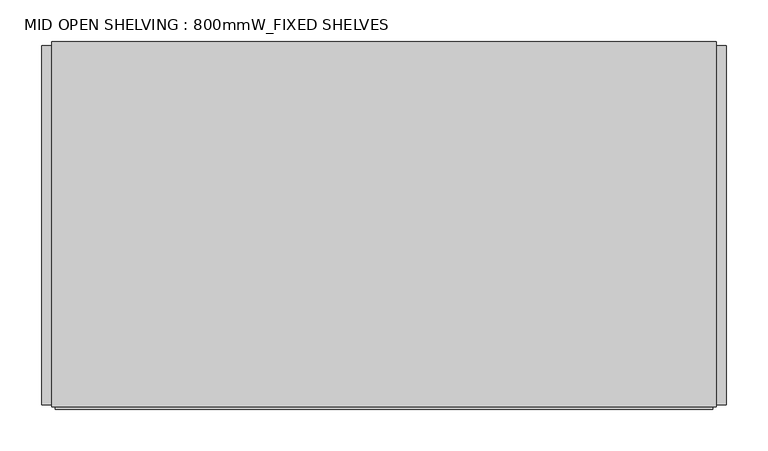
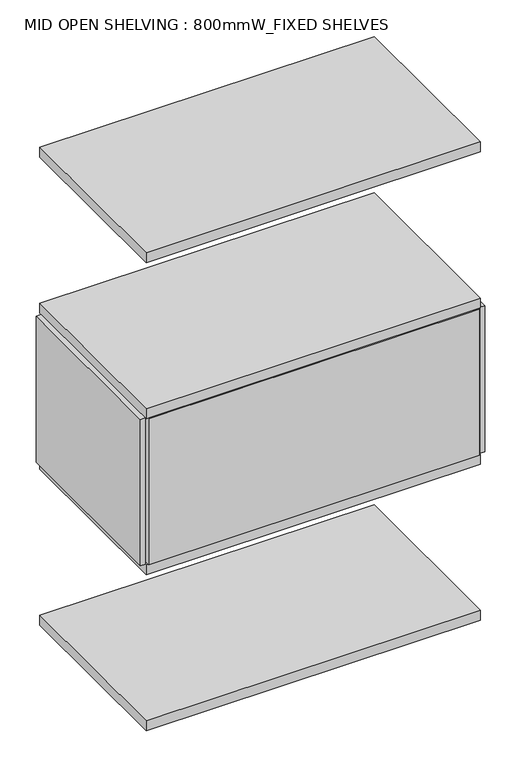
"""IFC4 building model written with IfcOpenShell, lengths in millimetres: furniture geometry, MID OPEN SHELVING : 800mmW_FIXED SHELVES."""

from ifc_helpers import new_model, si_unit, frame, origin, place, context, project, spatial, polyline, outline, extrude, source, transform, mapped, element, save


def mid_open_shelving_800mmw_fixed_shelves_fd13107a(model_context):
    return source(origin(), model_context, "Body", "SweptSolid", [
        extrude(outline(polyline([(412.0, 214.7757931), (412.0, -217.1931665), (400.0, -217.1931665), (400.0, 214.7757931), (412.0, 214.7757931)])), frame((0.0, 0.0, 413.0), z_axis=(0.0, 0.0, 1.0), x_axis=(1.0, 0.0, 0.0)), (0.0, 0.0, 1.0), 370.0),
        extrude(outline(polyline([(-400.0, 214.7757931), (-400.0, -217.1931665), (-412.0, -217.1931665), (-412.0, 214.7757931), (-400.0, 214.7757931)])), frame((0.0, 0.0, 413.0), z_axis=(0.0, 0.0, 1.0), x_axis=(1.0, 0.0, 0.0)), (0.0, 0.0, 1.0), 370.0),
        extrude(outline(polyline([(400.0, -220.0), (-400.0, -220.0), (-400.0, 220.0), (400.0, 220.0), (400.0, -220.0)])), frame((0.0, 0.0, -7.0), z_axis=(0.0, 0.0, 1.0), x_axis=(1.0, 0.0, 0.0)), (0.0, 0.0, 1.0), 25.0),
        extrude(outline(polyline([(400.0, -220.0), (-400.0, -220.0), (-400.0, 220.0), (400.0, 220.0), (400.0, -220.0)])), frame((0.0, 0.0, 388.0), z_axis=(0.0, 0.0, 1.0), x_axis=(1.0, 0.0, 0.0)), (0.0, 0.0, 1.0), 25.0),
        extrude(outline(polyline([(400.0, -220.0), (-400.0, -220.0), (-400.0, 220.0), (400.0, 220.0), (400.0, -220.0)])), frame((0.0, 0.0, 783.0), z_axis=(0.0, 0.0, 1.0), x_axis=(1.0, 0.0, 0.0)), (0.0, 0.0, 1.0), 25.0),
        extrude(outline(polyline([(400.0, -220.0), (-400.0, -220.0), (-400.0, 220.0), (400.0, 220.0), (400.0, -220.0)])), frame((0.0, 0.0, 1178.0), z_axis=(0.0, 0.0, 1.0), x_axis=(1.0, 0.0, 0.0)), (0.0, 0.0, 1.0), 25.0),
        extrude(outline(polyline([(395.4939356, -222.7282814), (-395.4939356, -222.7282814), (-395.4939356, -210.7282814), (395.4939356, -210.7282814), (395.4939356, -222.7282814)])), frame((0.0, 0.0, 413.0), z_axis=(0.0, 0.0, 1.0), x_axis=(1.0, 0.0, 0.0)), (0.0, 0.0, 1.0), 370.0),
    ])


if __name__ == "__main__":
    model = new_model("IFC4")
    model_context = context("Model", 3, world=origin())
    ifc_project = project(units=[si_unit("LENGTHUNIT", "METRE", prefix="MILLI")], contexts=[model_context])
    site = spatial("IfcSite", under=ifc_project)
    building = spatial("IfcBuilding", under=site)
    placement = place(None, origin())
    mid_open_shelving_800mmw_fixed_shelves_shape = mid_open_shelving_800mmw_fixed_shelves_fd13107a(model_context)
    element("IfcFurniture", 1, ObjectType="MID OPEN SHELVING : 800mmW_FIXED SHELVES", at=placement, inside=building, context=model_context, shape_type="MappedRepresentation", body=[
        mapped(mid_open_shelving_800mmw_fixed_shelves_shape, transform((0.0, 0.0, 0.0), x_axis=(1.0, 0.0, 0.0), y_axis=(0.0, 1.0, 0.0), z_axis=(0.0, 0.0, 1.0))),
    ])
    save(model, "model.ifc")
